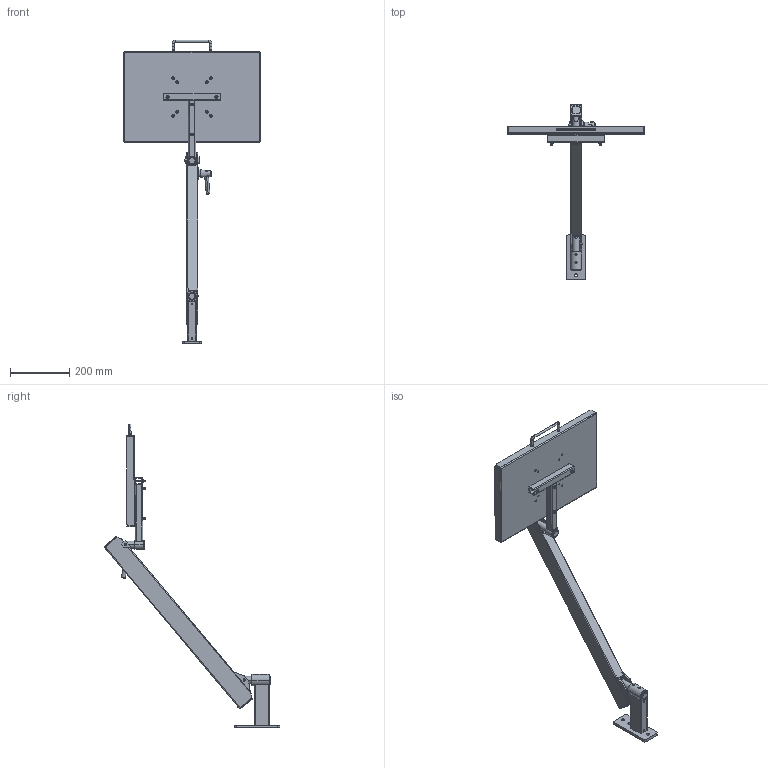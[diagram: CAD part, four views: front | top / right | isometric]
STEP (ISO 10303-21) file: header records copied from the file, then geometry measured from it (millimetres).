
FILE_DESCRIPTION (( 'STEP AP203' ), '1' );
FILE_NAME ('70-0735-00 REV AA, 24in FLEX SYSTEM, TOOL TRAY, WALL MOUNT W EXT - ANGLE UP.STEP', '2025-09-17T22:15:20', ( '' ), ( '' ), 'SwSTEP 2.0', 'SolidWorks 2025', '' );
FILE_SCHEMA (( 'CONFIG_CONTROL_DESIGN' ));
Length unit declared in the file: inch
Products named in the file (56): 11-0650-00 REV AA, BRAKE HANDLE ASSEMBLY; 70-0735-00 REV AA, 24in FLEX SYSTEM, TOOL TRAY, WALL MOUNT W EXT - ANGLE UP; 016-008-00, OILITE PLUS BEARING, 0.876 id x 1.002 od x 1.25 lg; 71-0030-RX REV AA, KNUCKLE, LOAD_MACHINE; 016-007-00, OILITE PLUS BEARING, 0.876 id x 1.002 od x 0.75 lg; 006-004-00_006-004-00; 71-0047-RX REV AA, HOUSING, T AND STRAIGHT BAR_MACHINE; 11-0401-00 REV AA, 18x12 TOOL TRAY, BLACK; 71-1051-RX REV AA, SPRING BLOCK; 71-2400-RX REV AA, HOUSING, 24in FLEX; 11-0601-99 REV AA, CONICAL KNOB, BRAKE ASSEMBLY; 71-3032-RX REV AA, SPRING ROD, 24in FLEX; 71-0028-RX REV AA, TAB, MOUNT_MACHINE; 002-100-00, BHSCS, 8-32x.375_002-100-00; 71-0040-RX REV AA, BRAKE BLOCK, WIDE_MACHINE; 70-0095-00 REV AA, STUD MOUNT, 6in EXT; 006-008-00, NUT, HEX, 10-32 x .125_006-008-00; 71-0057-WDX REV AA, GUIDE WELDMENT, 24in DOUBLE SPRING GUIDE; 002-091-00, FHSCS, 10-32x1.5, BO_002-091-00; 71-2113-RX REV AA, HOUSING, BEARING, TALL, 1.5OD_MACHINE; 71-0038-RX REV AA, PIVOT, KNUCKLE, ELECTROLESS NICKEL; 71-0070-RX REV AA, AXLE PIN, SHORT; 010-012-00, RETAINING RING, EXTERNAL, .875in SHAFT; 71-0052-RX REV AA, HOUSING, T AND STRAIGHT BAR CROSS SECTION_MACHINE; 71-0031-RX REV AA, KNUCKLE, MOUNT_MACHINE; 70-2435-00 REV AA,  FLEX SECTION, 24in, 16-35 LB; 70-0401-00 REV AA, 18x12 SUPPORT TRAY ASSEMBLY; 007-031-00_007-031-00; 71-0060-00; 11-0450-00 REV AA, FOAM, YELLOW, 18x12; 71-2033-99 REV AA, BOLT, ADJUSTING, 12.120; 71-0217-RX REV AA, PLATE, NARROW WALL MOUNT_Laser; 004-144-00; 71-0058-RX REV AA, BAR, GUIDE, 24in DOUBLE SPRING; 71-0071-RX REV AA, AXLE PIN, LONG; 71-2401-BLKX REV AA, FLEX HOUSING, 24in, BLACK; 71-0972-99 REV 1, END CAP, FLEX; 016-070-00, BEARING, PLASTIC, .5ID x .625 OD x .75; 71-0091-RX REV AA, HOUSING, WALL MOUNT, 6in EXTENSION; 004-050-00, WASHER, FIBER, .032 THK, .265ID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
Assembly tree (89 placements, depth 4):
  70-0735-00 REV AA, 24in FLEX SYSTEM, TOOL TRAY, WALL MOUNT W EXT - ANGLE UP
    70-0095-00 REV AA, STUD MOUNT, 6in EXT
      71-0217-RX REV AA, PLATE, NARROW WALL MOUNT_Laser
      71-0091-RX REV AA, HOUSING, WALL MOUNT, 6in EXTENSION
      71-2113-RX REV AA, HOUSING, BEARING, TALL, 1.5OD_MACHINE
      016-007-00, OILITE PLUS BEARING, 0.876 id x 1.002 od x 0.75 lg
      016-008-00, OILITE PLUS BEARING, 0.876 id x 1.002 od x 1.25 lg
      007-036-00, SHSS, 1''4-28, .25L_007-036-00
    70-2435-00 REV AA,  FLEX SECTION, 24in, 16-35 LB
      71-0031-RX REV AA, KNUCKLE, MOUNT_MACHINE
      71-1051-RX REV AA, SPRING BLOCK
      71-3032-RX REV AA, SPRING ROD, 24in FLEX
      71-0030-RX REV AA, KNUCKLE, LOAD_MACHINE
      71-0038-RX REV AA, PIVOT, KNUCKLE, ELECTROLESS NICKEL
      71-0037-RX REV AA, PIVOT, THREADED
      71-0040-RX REV AA, BRAKE BLOCK, WIDE_MACHINE
      71-2033-99 REV AA, BOLT, ADJUSTING, 12.120
      71-2401-BLKX REV AA, FLEX HOUSING, 24in, BLACK
        71-2400-RX REV AA, HOUSING, 24in FLEX
        71-0029-RX REV AA, TAB, LOAD  x2
        71-0028-RX REV AA, TAB, MOUNT_MACHINE  x2
      71-0070-RX REV AA, AXLE PIN, SHORT
      71-0071-RX REV AA, AXLE PIN, LONG
      71-0972-99 REV 1, END CAP, FLEX  x2
      11-0027-RX REV AA, PLASTIC DISC, BRAKE ASSEMBLY_MACHINE
      71-0057-WDX REV AA, GUIDE WELDMENT, 24in DOUBLE SPRING GUIDE
        71-0058-RX REV AA, BAR, GUIDE, 24in DOUBLE SPRING
        71-0059-RX REV AA, BUSHING, GUIDE, 24in DOUBLE SPRING  x2
      71-0060-00  x2
      11-0650-00 REV AA, BRAKE HANDLE ASSEMBLY
        11-0601-99 REV AA, CONICAL KNOB, BRAKE ASSEMBLY
        11-0602-RX REV AA, HANDLE, BRAKE ASSEMBLY
        11-0027-RX REV AA, PLASTIC DISC, BRAKE ASSEMBLY_MACHINE
        005-084-00, BOLT, 1''4-20x2.75
      010-012-00, RETAINING RING, EXTERNAL, .875in SHAFT  x2
      013-043-00, SPRING, GOLD, 1x8_ISO425203  x2
      010-011-00, RETAINING RING, EXT, .250 SHAFT_010-011-00  x4
      007-036-00, SHSS, 1''4-28, .25L_007-036-00
      016-070-00, BEARING, PLASTIC, .5ID x .625 OD x .75  x2
      004-050-00, WASHER, FIBER, .032 THK, .265ID  x8
      011-033-00  x2
      011-020-00 REV AA, PIN, KNURLED, 1.0LG x .25OD  x2
      004-144-00  x3
      006-059-00
      006-004-00_006-004-00  x2
      002-041-00_002-041-00  x2
    70-0401-00 REV AA, 18x12 SUPPORT TRAY ASSEMBLY
      11-0401-00 REV AA, 18x12 TOOL TRAY, BLACK
      70-0050-00 REV AA, T BAR
        71-0047-RX REV AA, HOUSING, T AND STRAIGHT BAR_MACHINE
        71-0013-RX REV AA, HOUSING, BEARING, SHORT_MACHINE
        71-0052-RX REV AA, HOUSING, T AND STRAIGHT BAR CROSS SECTION_MACHINE
        016-008-00, OILITE PLUS BEARING, 0.876 id x 1.002 od x 1.25 lg
        007-031-00_007-031-00
      002-091-00, FHSCS, 10-32x1.5, BO_002-091-00  x4
      006-008-00, NUT, HEX, 10-32 x .125_006-008-00  x4
      025-067-00, HANDLE, U SHAPED, 8-32
      002-100-00, BHSCS, 8-32x.375_002-100-00  x2
      11-0450-00 REV AA, FOAM, YELLOW, 18x12
Bounding box: 461.77 x 594.47 x 1028.81 mm (x, y, z)
Volume: 1854870.1 mm3; surface area: 1301437.1 mm2
Topology: 85 solids, 85 shells, 2168 faces, 5247 edges, 3247 vertices
Faces by surface type: cylinder 945, plane 600, cone 459, torus 89, bspline 65, sphere 10
Entity records: 91803 total; most frequent: CARTESIAN_POINT 54770, ORIENTED_EDGE 6318, DIRECTION 6275, EDGE_CURVE 3159, AXIS2_PLACEMENT_3D 2433, VERTEX_POINT 1967, EDGE_LOOP 1468, LINE 1409
